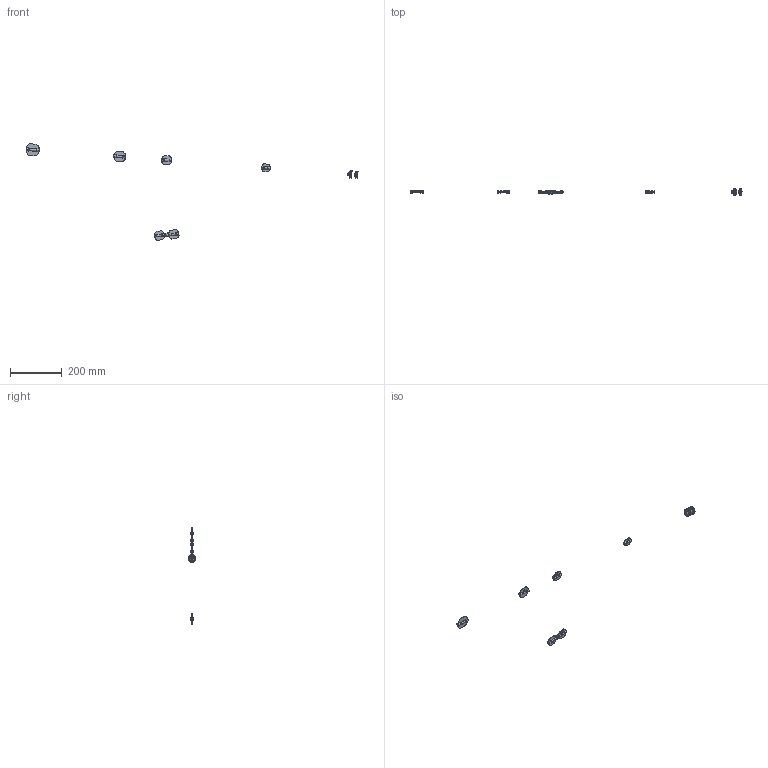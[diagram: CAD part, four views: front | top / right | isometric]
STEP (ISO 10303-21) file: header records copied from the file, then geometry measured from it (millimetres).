
FILE_DESCRIPTION((''),'2;1');
FILE_NAME('0000237060_PRT','2025-11-12T18:39:17',('Wyndorps'),(''),'CREO PARAMETRIC BY PTC INC, 2025010','CREO PARAMETRIC BY PTC INC, 2025010','');
FILE_SCHEMA(('CONFIG_CONTROL_DESIGN'));
Length unit declared in the file: millimetre
Products named in the file (1): 0000237060_PRT
Bounding box: 1289.09 x 29.39 x 374.22 mm (x, y, z)
Volume: 30644.2 mm3; surface area: 32062.8 mm2
Topology: 8 solids, 8 shells, 759 faces, 1858 edges, 1168 vertices
Faces by surface type: plane 268, cylinder 212, extrusion 101, bspline 72, torus 44, sphere 36, cone 26
Entity records: 26444 total; most frequent: CARTESIAN_POINT 9133, ORIENTED_EDGE 3716, DIRECTION 3309, EDGE_CURVE 1858, AXIS2_PLACEMENT_3D 1170, VERTEX_POINT 1168, VECTOR 969, LINE 868
